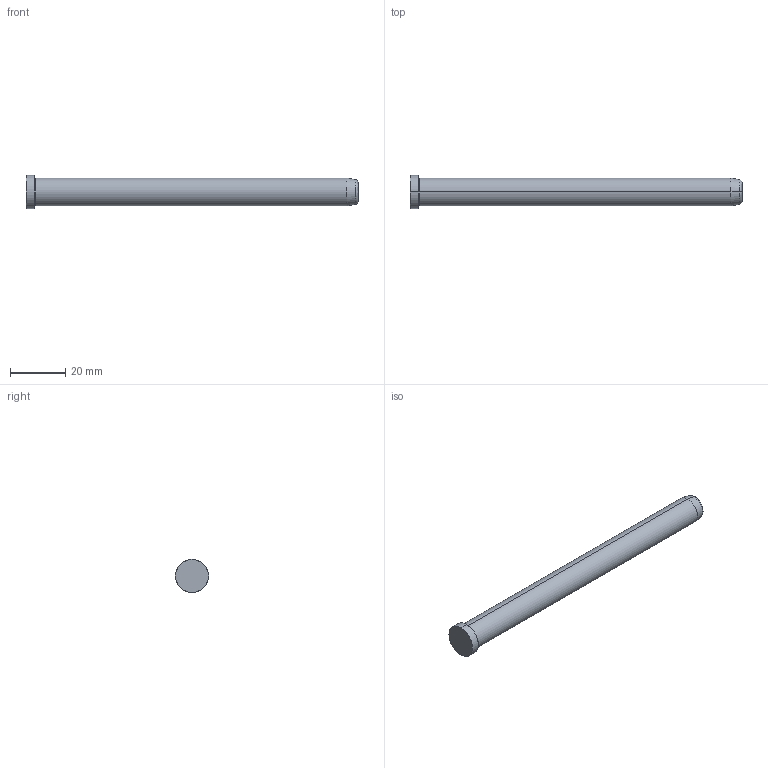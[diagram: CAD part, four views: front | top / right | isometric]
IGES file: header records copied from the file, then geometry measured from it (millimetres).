
Start section: SolidWorks IGES FILE using analytic representation for surfaces
Global section: file name: D:\zzzzz\Delta\D01 D\10\D01 D - 10x120.IGS; native system: SolidWorks 2004 by SolidWorks Corporation; preprocessor: Version 5.3; author: Hkn; date: 080326.193845; units: millimetre
Bounding box: 120 x 12 x 12 mm (x, y, z)
Surface area: 3993.9 mm2 (no closed solid volume)
Topology: 0 solids, 0 shells, 14 faces, 232 edges, 232 vertices
Faces by surface type: revolution 8, bspline 6
